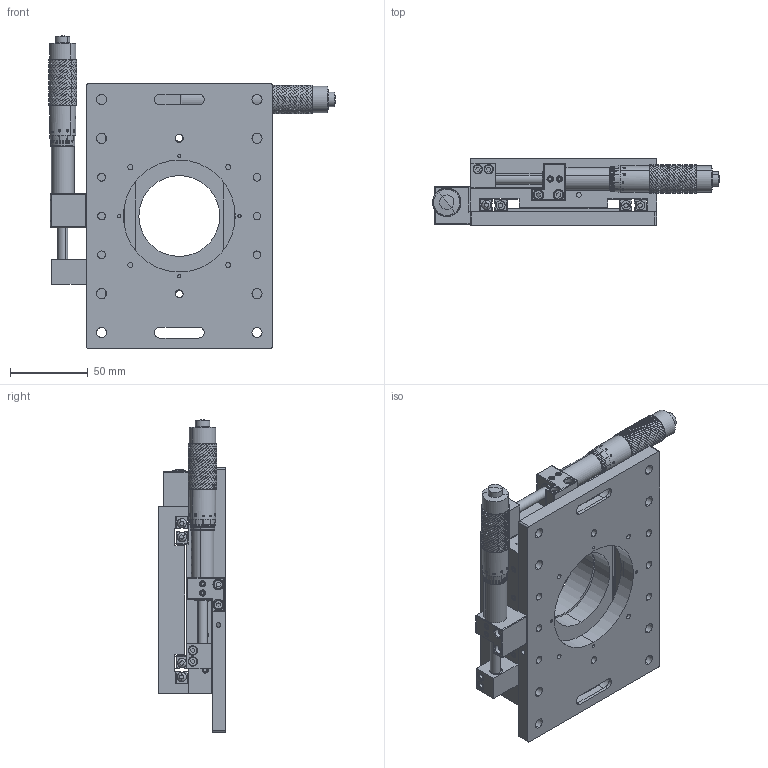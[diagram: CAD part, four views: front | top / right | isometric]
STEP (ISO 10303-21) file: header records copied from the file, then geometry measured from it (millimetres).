
FILE_DESCRIPTION (( 'STEP AP203' ), '1' );
FILE_NAME ('TSS120HXY-2.STEP', '2017-02-15T02:32:18', ( '' ), ( '' ), 'SwSTEP 2.0', 'SolidWorks 2012', '' );
FILE_SCHEMA (( 'CONFIG_CONTROL_DESIGN' ));
Products named in the file (1): TSS120HXY-2
Bounding box: 184.54 x 43 x 200.94 mm (x, y, z)
Surface area: 170068.8 mm2 (no closed solid volume)
Topology: 0 solids, 151 shells, 3730 faces, 17964 edges, 13224 vertices
Faces by surface type: cylinder 1838, bspline 1387, plane 376, cone 89, torus 26, sphere 14
Entity records: 364758 total; most frequent: CARTESIAN_POINT 261644, ORIENTED_EDGE 26994, EDGE_CURVE 17954, VERTEX_POINT 13224, DIRECTION 11477, B_SPLINE_CURVE_WITH_KNOTS 6623, AXIS2_PLACEMENT_3D 4433, EDGE_LOOP 4345
